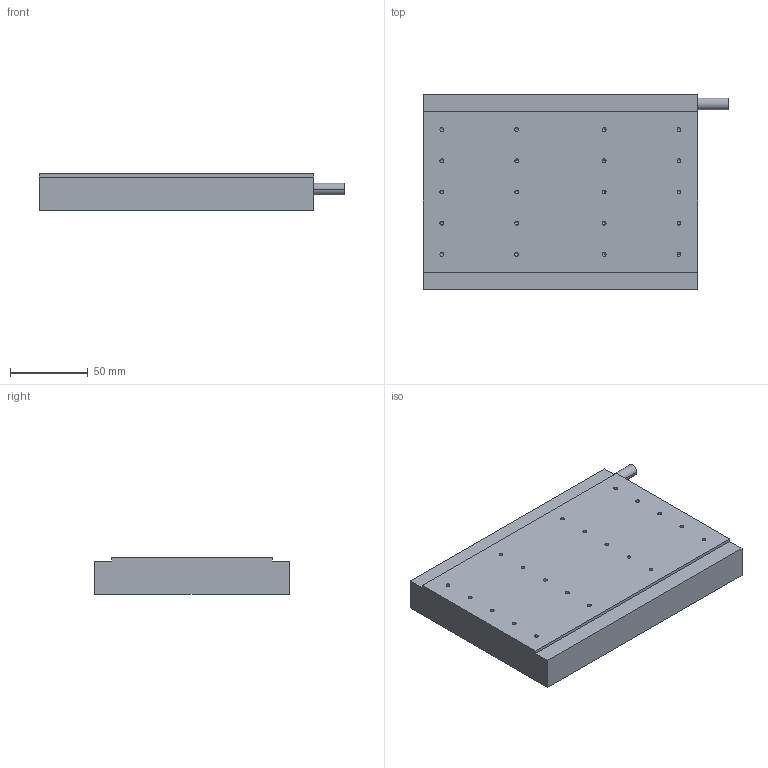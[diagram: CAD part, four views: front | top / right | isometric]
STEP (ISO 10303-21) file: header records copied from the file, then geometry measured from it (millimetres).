
FILE_DESCRIPTION (( 'STEP AP214' ), '1' );
FILE_NAME ('D-CJM100D.STEP', '2025-09-05T11:30:22', ( '' ), ( '' ), 'SwSTEP 2.0', 'SolidWorks 2016', '' );
FILE_SCHEMA (( 'AUTOMOTIVE_DESIGN' ));
Length unit declared in the file: millimetre
Products named in the file (1): D-CJM100D
Bounding box: 196 x 125 x 23.2 mm (x, y, z)
Volume: 502789.2 mm3; surface area: 59550.6 mm2
Topology: 1 solids, 1 shells, 117 faces, 286 edges, 148 vertices
Faces by surface type: cone 56, cylinder 50, plane 11
Entity records: 3582 total; most frequent: DIRECTION 582, CARTESIAN_POINT 504, ORIENTED_EDGE 476, EDGE_CURVE 238, AXIS2_PLACEMENT_3D 226, VERTEX_POINT 148, EDGE_LOOP 142, LINE 130
